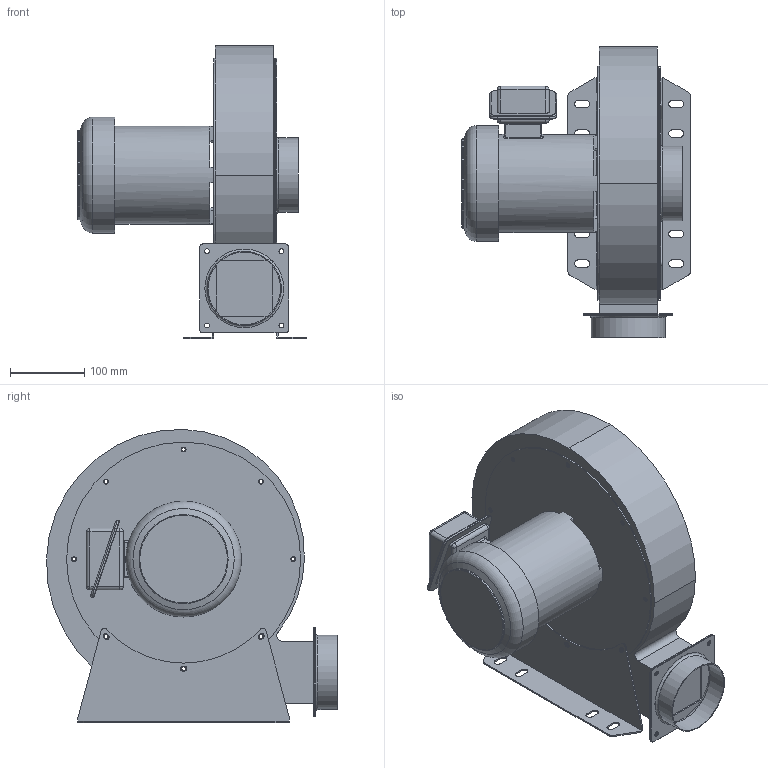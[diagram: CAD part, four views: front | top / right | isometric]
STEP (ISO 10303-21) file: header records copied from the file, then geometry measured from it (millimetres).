
FILE_DESCRIPTION(/* description */ ('Unknown'),/* implementation_level */ '2;1');
FILE_NAME(/* name */ 'CYT275A2PQ-EG 型錄',/* time_stamp */ '2026-06-04T10:29:20+08:00',/* author */ ('Unknown'),/* organization */ ('Unknown'),/* preprocessor_version */ 'ST-DEVELOPER v20',/* originating_system */ 'Solid Edge',/* authorisation */ 'Unknown');
FILE_SCHEMA (('AUTOMOTIVE_DESIGN {1 0 10303 214 3 1 1}'));
Length unit declared in the file: millimetre
Products named in the file (8): CYT275A2PQ-EG 型; CYT275-01; CYT275-08; CYT275-04; CYT275-05-4; CYT275-06VL; CYT275-07; JM1502P3V-EG (KAF731)
Assembly tree (8 placements, depth 2):
  CYT275A2PQ-EG 型
    CYT275-01
    CYT275-08
    CYT275-04
    CYT275-05-4
    CYT275-06VL
    CYT275-07  x2
    JM1502P3V-EG (KAF731)
Bounding box: 307.6 x 391.6 x 394.5 mm (x, y, z)
Volume: 7049048.8 mm3; surface area: 1065258.2 mm2
Topology: 8 solids, 8 shells, 329 faces, 831 edges, 526 vertices
Faces by surface type: cylinder 170, plane 125, torus 13, bspline 12, sphere 8, cone 1
Full cylindrical faces by diameter (mm): 5 x12, 6.5 x32, 14 x1, 30 x1, 97.6 x2, 100 x3, 120 x1, 125 x1, 132 x1, 156 x1, 280 x1, 315 x3
Entity records: 8486 total; most frequent: CARTESIAN_POINT 1580, DIRECTION 1475, ORIENTED_EDGE 1218, EDGE_CURVE 609, AXIS2_PLACEMENT_3D 597, EDGE_LOOP 467, FACE_BOUND 467, VERTEX_POINT 426
